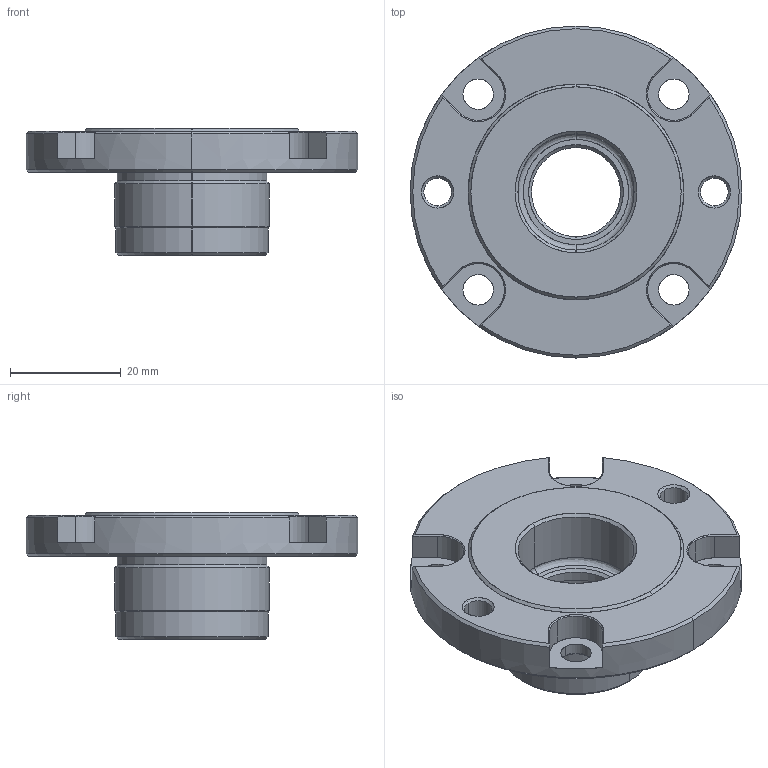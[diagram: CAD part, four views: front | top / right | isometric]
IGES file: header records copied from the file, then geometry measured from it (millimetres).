
Start section: SolidWorks IGES file using analytic representation for surfaces
Global section: file name: X:\11_SW2020-Inv2020\00_全2021-11新製品まで\a\AMWF40-BU-S\amwf40-bu-s.IGS; native system: SolidWorks 2020; preprocessor: SolidWorks 2020; author: ImaoCorp; date: 211021.163534; units: millimetre
Bounding box: 60 x 60 x 23 mm (x, y, z)
Surface area: 9679.1 mm2 (no closed solid volume)
Topology: 0 solids, 0 shells, 109 faces, 1557 edges, 1557 vertices
Faces by surface type: revolution 79, bspline 30
